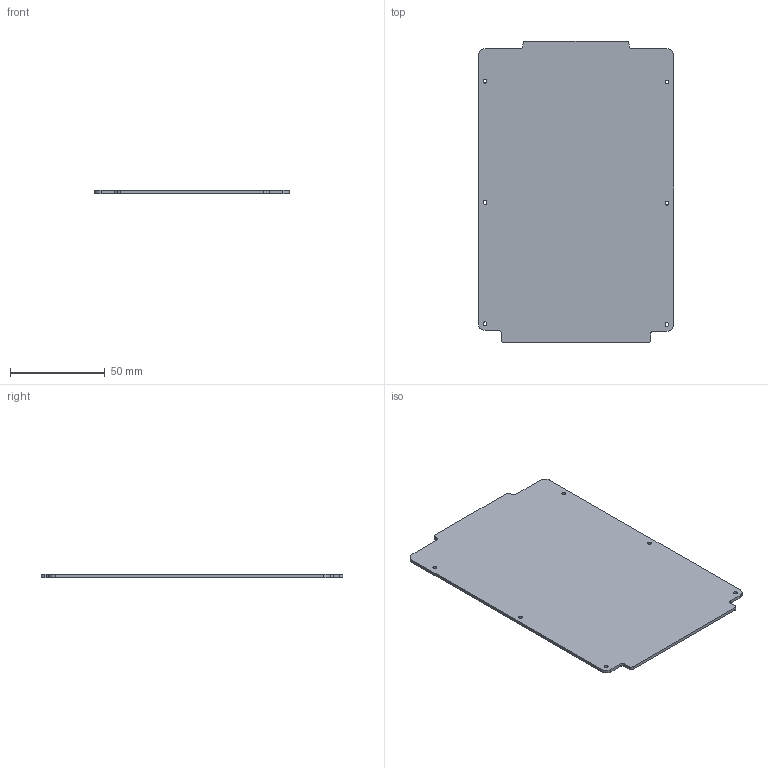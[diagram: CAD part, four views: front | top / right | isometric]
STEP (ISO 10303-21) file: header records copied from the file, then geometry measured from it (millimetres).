
FILE_DESCRIPTION(('Open CASCADE Model'),'2;1');
FILE_NAME('Open CASCADE Shape Model','2026-10-01T15:23:51',('Author'),( 'Open CASCADE'),'Open CASCADE STEP processor 7.9','Open CASCADE 7.9' ,'Unknown');
FILE_SCHEMA(('AUTOMOTIVE_DESIGN { 1 0 10303 214 1 1 1 1 }'));
Length unit declared in the file: millimetre
Products named in the file (1): Open CASCADE STEP translator 7.9 14
Bounding box: 102.96 x 159.02 x 1.6 mm (x, y, z)
Volume: 25604.9 mm3; surface area: 32887 mm2
Topology: 1 solids, 1 shells, 32 faces, 90 edges, 60 vertices
Faces by surface type: cylinder 18, plane 14
Full cylindrical faces by diameter (mm): 2 x6
Entity records: 2326 total; most frequent: CARTESIAN_POINT 507, DIRECTION 348, LINE 198, VECTOR 198, ORIENTED_EDGE 180, PCURVE 180, DEFINITIONAL_REPRESENTATION 180, EDGE_CURVE 90
